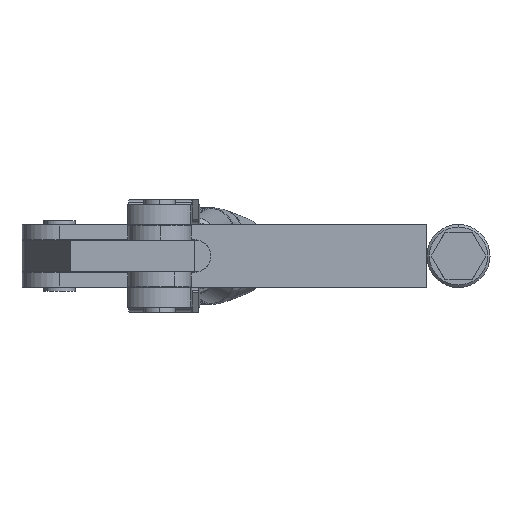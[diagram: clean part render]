
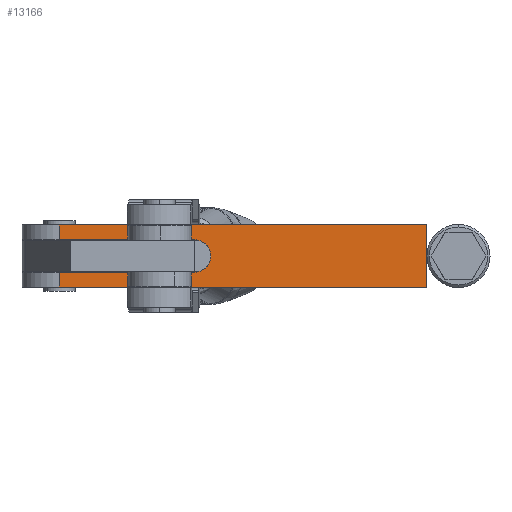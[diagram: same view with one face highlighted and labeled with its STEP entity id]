
A CAD part, front view. The second image highlights one B-rep face of the part: STEP entity #13166.
In plain terms, the highlighted planar face has unit normal (0.001, -1, 0).
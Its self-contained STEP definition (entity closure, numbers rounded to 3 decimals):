
#318 = EDGE_CURVE ( 'NONE', #12723, #24814, #20642, .T. ) ;
#1320 = ORIENTED_EDGE ( 'NONE', *, *, #3900, .T. ) ;
#2074 = DIRECTION ( 'NONE',  ( -1., 0., 0. ) ) ;
#2175 = EDGE_CURVE ( 'NONE', #18435, #15225, #20467, .T. ) ;
#2349 = LINE ( 'NONE', #18550, #26598 ) ;
#3206 = EDGE_CURVE ( 'NONE', #21588, #18435, #8317, .T. ) ;
#3314 = CARTESIAN_POINT ( 'NONE',  ( -163., -15., -12.5 ) ) ;
#3900 = EDGE_CURVE ( 'NONE', #15225, #18240, #2349, .T. ) ;
#4132 = EDGE_CURVE ( 'NONE', #27260, #16486, #26929, .T. ) ;
#4782 = CARTESIAN_POINT ( 'NONE',  ( -15., -15., 12.5 ) ) ;
#4989 = LINE ( 'NONE', #15516, #21916 ) ;
#6191 = ORIENTED_EDGE ( 'NONE', *, *, #318, .T. ) ;
#6201 = CARTESIAN_POINT ( 'NONE',  ( -15., -15., -6.5 ) ) ;
#6251 = ORIENTED_EDGE ( 'NONE', *, *, #4132, .F. ) ;
#6353 = CARTESIAN_POINT ( 'NONE',  ( -69.5, -15., -6.5 ) ) ;
#6544 = ORIENTED_EDGE ( 'NONE', *, *, #2175, .T. ) ;
#7168 = CARTESIAN_POINT ( 'NONE',  ( -69.5, -15., 6.5 ) ) ;
#7640 = VECTOR ( 'NONE', #11666, 1000. ) ;
#7951 = AXIS2_PLACEMENT_3D ( 'NONE', #19740, #15387, #2074 ) ;
#8317 = LINE ( 'NONE', #9436, #7640 ) ;
#9436 = CARTESIAN_POINT ( 'NONE',  ( 0., -15., -6.5 ) ) ;
#9737 = DIRECTION ( 'NONE',  ( 0., 1., 0. ) ) ;
#10781 = LINE ( 'NONE', #25392, #27729 ) ;
#11240 = ORIENTED_EDGE ( 'NONE', *, *, #27769, .F. ) ;
#11666 = DIRECTION ( 'NONE',  ( -1., 0., 0. ) ) ;
#11922 = CARTESIAN_POINT ( 'NONE',  ( -163., -15., -12.5 ) ) ;
#11924 = CARTESIAN_POINT ( 'NONE',  ( -15., -15., 12.5 ) ) ;
#11964 = DIRECTION ( 'NONE',  ( 1., 0., 0. ) ) ;
#12204 = DIRECTION ( 'NONE',  ( 0., 0., -1. ) ) ;
#12356 = EDGE_CURVE ( 'NONE', #27260, #12723, #10781, .T. ) ;
#12723 = VERTEX_POINT ( 'NONE', #3314 ) ;
#12842 = CARTESIAN_POINT ( 'NONE',  ( -163., -15., 12.5 ) ) ;
#13166 = ADVANCED_FACE ( 'NONE', ( #26301 ), #28582, .F. ) ;
#13607 = DIRECTION ( 'NONE',  ( 0., 0., -1. ) ) ;
#14143 = DIRECTION ( 'NONE',  ( 1., 0., 0. ) ) ;
#14356 = AXIS2_PLACEMENT_3D ( 'NONE', #22963, #9737, #25193 ) ;
#15225 = VERTEX_POINT ( 'NONE', #7168 ) ;
#15387 = DIRECTION ( 'NONE',  ( 0., 1., 0. ) ) ;
#15516 = CARTESIAN_POINT ( 'NONE',  ( -15., -15., 12.5 ) ) ;
#16486 = VERTEX_POINT ( 'NONE', #11924 ) ;
#18240 = VERTEX_POINT ( 'NONE', #27737 ) ;
#18435 = VERTEX_POINT ( 'NONE', #6353 ) ;
#18550 = CARTESIAN_POINT ( 'NONE',  ( -69.5, -15., 6.5 ) ) ;
#19740 = CARTESIAN_POINT ( 'NONE',  ( -163., -15., 12.5 ) ) ;
#19842 = LINE ( 'NONE', #4782, #21213 ) ;
#20467 = CIRCLE ( 'NONE', #14356, 6.5 ) ;
#20642 = LINE ( 'NONE', #11922, #25801 ) ;
#21070 = VECTOR ( 'NONE', #27919, 1000. ) ;
#21213 = VECTOR ( 'NONE', #13607, 1000. ) ;
#21588 = VERTEX_POINT ( 'NONE', #6201 ) ;
#21916 = VECTOR ( 'NONE', #26386, 1000. ) ;
#22306 = EDGE_LOOP ( 'NONE', ( #6544, #1320, #25572, #6251, #24251, #6191, #11240, #22734 ) ) ;
#22734 = ORIENTED_EDGE ( 'NONE', *, *, #3206, .T. ) ;
#22963 = CARTESIAN_POINT ( 'NONE',  ( -69.5, -15., 0. ) ) ;
#24251 = ORIENTED_EDGE ( 'NONE', *, *, #12356, .T. ) ;
#24523 = CARTESIAN_POINT ( 'NONE',  ( -15., -15., -12.5 ) ) ;
#24814 = VERTEX_POINT ( 'NONE', #24523 ) ;
#25193 = DIRECTION ( 'NONE',  ( 0., 0., 1. ) ) ;
#25392 = CARTESIAN_POINT ( 'NONE',  ( -163., -15., 12.5 ) ) ;
#25572 = ORIENTED_EDGE ( 'NONE', *, *, #26406, .F. ) ;
#25801 = VECTOR ( 'NONE', #14143, 1000. ) ;
#26301 = FACE_OUTER_BOUND ( 'NONE', #22306, .T. ) ;
#26386 = DIRECTION ( 'NONE',  ( 0., 0., -1. ) ) ;
#26406 = EDGE_CURVE ( 'NONE', #16486, #18240, #4989, .T. ) ;
#26598 = VECTOR ( 'NONE', #11964, 1000. ) ;
#26929 = LINE ( 'NONE', #27366, #21070 ) ;
#27260 = VERTEX_POINT ( 'NONE', #12842 ) ;
#27366 = CARTESIAN_POINT ( 'NONE',  ( -163., -15., 12.5 ) ) ;
#27729 = VECTOR ( 'NONE', #12204, 1000. ) ;
#27737 = CARTESIAN_POINT ( 'NONE',  ( -15., -15., 6.5 ) ) ;
#27769 = EDGE_CURVE ( 'NONE', #21588, #24814, #19842, .T. ) ;
#27919 = DIRECTION ( 'NONE',  ( 1., 0., 0. ) ) ;
#28582 = PLANE ( 'NONE',  #7951 ) ;
